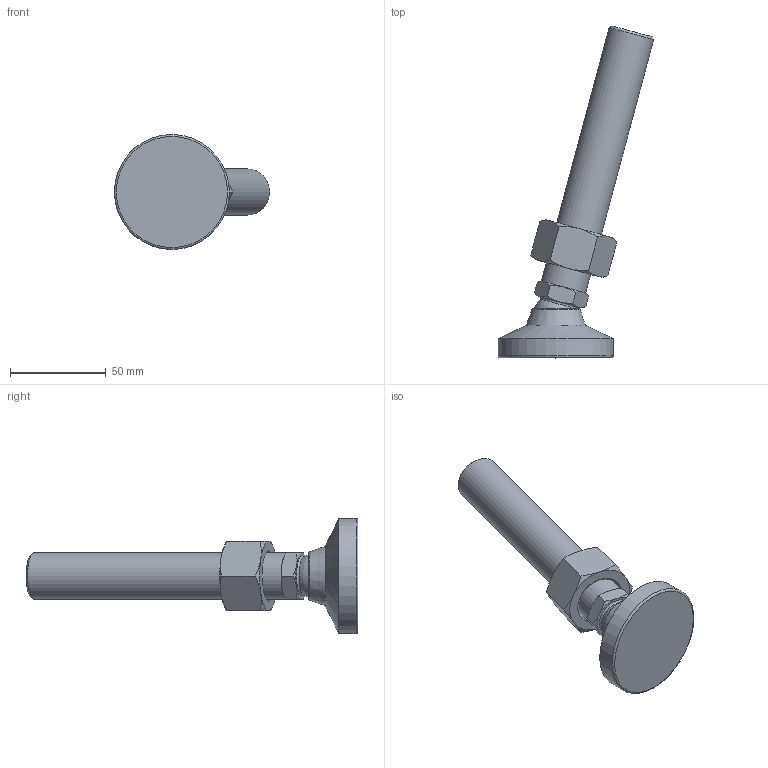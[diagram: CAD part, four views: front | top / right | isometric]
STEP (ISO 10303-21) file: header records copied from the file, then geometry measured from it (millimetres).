
FILE_DESCRIPTION( ( 'STEP AP214' ), ' ' );
FILE_NAME( 'O:/ganter_2015/teil_2/2_5/gn343_2/gn343_2_kre/Levelling foot with threaded stud GN 343.2-60-M24-138-KRE-(-15).stp', '2015-10-26T09:20:53', ( '' ), ( '' ), ' ', 'PARTsolutions', ' ' );
FILE_SCHEMA( ( 'AUTOMOTIVE_DESIGN { 1 0 10303 214 1 1 1 1 }' ) );
Length unit declared in the file: millimetre
Products named in the file (4): Levelling foot with threaded stud GN 343.2-60-M24-138-KRE-(-15); _Levelling foot with threaded stud GN 343.2-60-M24-138-KRE-(-15)_foot; _Levelling foot with threaded stud GN 343.2-60-M24-138-KRE-(-15)_screw; _Levelling foot with threaded stud GN 343.2-60-M24-138-KRE-(-15)_nut
Assembly tree (3 placements, depth 2):
  Levelling foot with threaded stud GN 343.2-60-M24-138-KRE-(-15)
    _Levelling foot with threaded stud GN 343.2-60-M24-138-KRE-(-15)_foot
    _Levelling foot with threaded stud GN 343.2-60-M24-138-KRE-(-15)_screw
    _Levelling foot with threaded stud GN 343.2-60-M24-138-KRE-(-15)_nut
Bounding box: 81 x 173.07 x 60 mm (x, y, z)
Volume: 129418.8 mm3; surface area: 27406.3 mm2
Topology: 3 solids, 3 shells, 55 faces, 116 edges, 67 vertices
Faces by surface type: cone 29, plane 18, torus 3, cylinder 3, sphere 2
Full cylindrical faces by diameter (mm): 20.752 x1, 24 x1, 60 x1
Entity records: 2078 total; most frequent: CARTESIAN_POINT 535, DIRECTION 208, ORIENTED_EDGE 198, EDGE_CURVE 99, AXIS2_PLACEMENT_3D 98, EDGE_LOOP 70, VERTEX_POINT 65, FACE_OUTER_BOUND 61
